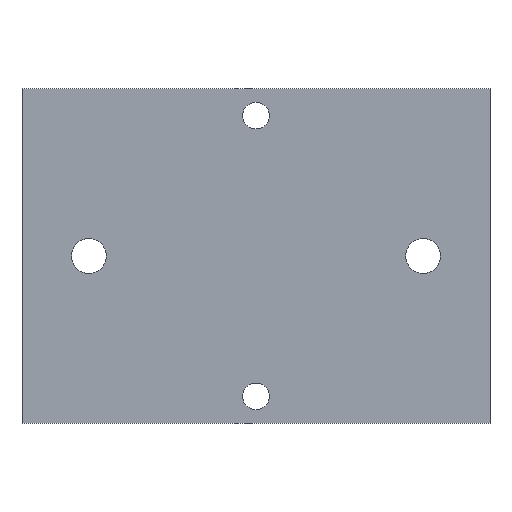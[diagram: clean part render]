
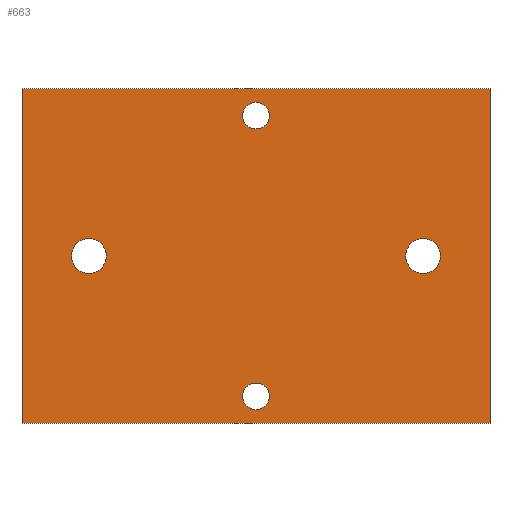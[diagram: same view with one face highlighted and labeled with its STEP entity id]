
A CAD part, left-side view. The second image highlights one B-rep face of the part: STEP entity #663.
In plain terms, the highlighted planar face has unit normal (-1, 0, 0).
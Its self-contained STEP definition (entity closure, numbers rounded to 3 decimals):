
#37=FACE_BOUND('',#149,.T.);
#38=FACE_BOUND('',#150,.T.);
#39=FACE_BOUND('',#151,.T.);
#40=FACE_BOUND('',#152,.T.);
#51=CIRCLE('',#704,2.6);
#55=CIRCLE('',#711,2.6);
#56=CIRCLE('',#713,1.998);
#57=CIRCLE('',#714,1.998);
#58=CIRCLE('',#716,1.998);
#59=CIRCLE('',#717,1.998);
#104=FACE_OUTER_BOUND('',#148,.T.);
#148=EDGE_LOOP('',(#599,#600,#601,#602));
#149=EDGE_LOOP('',(#603));
#150=EDGE_LOOP('',(#604));
#151=EDGE_LOOP('',(#605,#606));
#152=EDGE_LOOP('',(#607,#608));
#161=LINE('',#962,#221);
#167=LINE('',#973,#227);
#196=LINE('',#1083,#256);
#212=LINE('',#1124,#272);
#221=VECTOR('',#768,10.);
#227=VECTOR('',#776,10.);
#256=VECTOR('',#887,10.);
#272=VECTOR('',#935,10.);
#281=VERTEX_POINT('',#959);
#282=VERTEX_POINT('',#961);
#286=VERTEX_POINT('',#971);
#302=VERTEX_POINT('',#1014);
#306=VERTEX_POINT('',#1027);
#307=VERTEX_POINT('',#1031);
#308=VERTEX_POINT('',#1032);
#309=VERTEX_POINT('',#1037);
#310=VERTEX_POINT('',#1038);
#326=VERTEX_POINT('',#1081);
#346=EDGE_CURVE('',#281,#282,#161,.T.);
#352=EDGE_CURVE('',#281,#286,#167,.T.);
#373=EDGE_CURVE('',#302,#302,#51,.T.);
#379=EDGE_CURVE('',#306,#306,#55,.T.);
#380=EDGE_CURVE('',#307,#308,#56,.T.);
#381=EDGE_CURVE('',#308,#307,#57,.T.);
#383=EDGE_CURVE('',#309,#310,#58,.T.);
#384=EDGE_CURVE('',#310,#309,#59,.T.);
#406=EDGE_CURVE('',#326,#286,#196,.T.);
#426=EDGE_CURVE('',#326,#282,#212,.T.);
#599=ORIENTED_EDGE('',*,*,#426,.T.);
#600=ORIENTED_EDGE('',*,*,#346,.F.);
#601=ORIENTED_EDGE('',*,*,#352,.T.);
#602=ORIENTED_EDGE('',*,*,#406,.F.);
#603=ORIENTED_EDGE('',*,*,#373,.T.);
#604=ORIENTED_EDGE('',*,*,#379,.T.);
#605=ORIENTED_EDGE('',*,*,#380,.T.);
#606=ORIENTED_EDGE('',*,*,#381,.T.);
#607=ORIENTED_EDGE('',*,*,#383,.T.);
#608=ORIENTED_EDGE('',*,*,#384,.T.);
#630=PLANE('',#747);
#663=ADVANCED_FACE('',(#104,#37,#38,#39,#40),#630,.T.);
#704=AXIS2_PLACEMENT_3D('',#1016,#817,#818);
#711=AXIS2_PLACEMENT_3D('',#1029,#833,#834);
#713=AXIS2_PLACEMENT_3D('',#1033,#837,#838);
#714=AXIS2_PLACEMENT_3D('',#1034,#839,#840);
#716=AXIS2_PLACEMENT_3D('',#1039,#844,#845);
#717=AXIS2_PLACEMENT_3D('',#1040,#846,#847);
#747=AXIS2_PLACEMENT_3D('',#1125,#936,#937);
#768=DIRECTION('',(0.,-1.,0.));
#776=DIRECTION('',(0.,0.,-1.));
#817=DIRECTION('center_axis',(1.,0.,0.));
#818=DIRECTION('ref_axis',(0.,0.,-1.));
#833=DIRECTION('center_axis',(1.,0.,0.));
#834=DIRECTION('ref_axis',(0.,0.,-1.));
#837=DIRECTION('center_axis',(1.,0.,0.));
#838=DIRECTION('ref_axis',(0.,0.,1.));
#839=DIRECTION('center_axis',(1.,0.,0.));
#840=DIRECTION('ref_axis',(0.,0.,1.));
#844=DIRECTION('center_axis',(1.,0.,0.));
#845=DIRECTION('ref_axis',(0.,0.,1.));
#846=DIRECTION('center_axis',(1.,0.,0.));
#847=DIRECTION('ref_axis',(0.,0.,1.));
#887=DIRECTION('',(0.,1.,0.));
#935=DIRECTION('',(0.,0.,1.));
#936=DIRECTION('center_axis',(-1.,0.,0.));
#937=DIRECTION('ref_axis',(0.,-1.,0.));
#959=CARTESIAN_POINT('',(0.,70.,25.));
#961=CARTESIAN_POINT('',(0.,0.,25.));
#962=CARTESIAN_POINT('',(0.,0.,25.));
#971=CARTESIAN_POINT('',(0.,70.,-25.));
#973=CARTESIAN_POINT('',(0.,70.,0.));
#1014=CARTESIAN_POINT('',(0.,10.,2.6));
#1016=CARTESIAN_POINT('Origin',(0.,10.,0.));
#1027=CARTESIAN_POINT('',(0.,60.,2.6));
#1029=CARTESIAN_POINT('Origin',(0.,60.,0.));
#1031=CARTESIAN_POINT('',(0.,35.,-19.003));
#1032=CARTESIAN_POINT('',(0.,35.,-22.998));
#1033=CARTESIAN_POINT('Origin',(0.,35.,-21.));
#1034=CARTESIAN_POINT('Origin',(0.,35.,-21.));
#1037=CARTESIAN_POINT('',(0.,35.,22.998));
#1038=CARTESIAN_POINT('',(0.,35.,19.003));
#1039=CARTESIAN_POINT('Origin',(0.,35.,21.));
#1040=CARTESIAN_POINT('Origin',(0.,35.,21.));
#1081=CARTESIAN_POINT('',(0.,0.,-25.));
#1083=CARTESIAN_POINT('',(0.,0.,-25.));
#1124=CARTESIAN_POINT('',(0.,0.,0.));
#1125=CARTESIAN_POINT('Origin',(0.,70.,0.));
